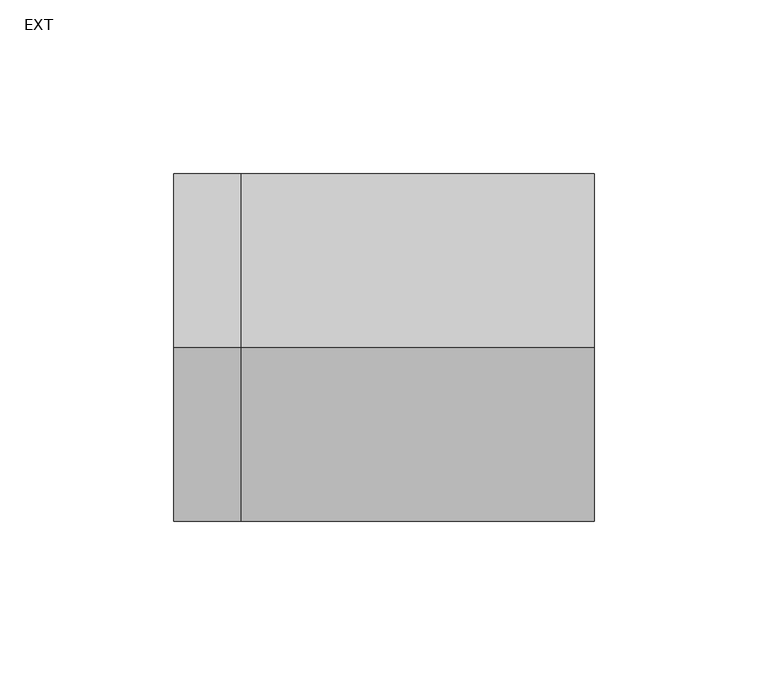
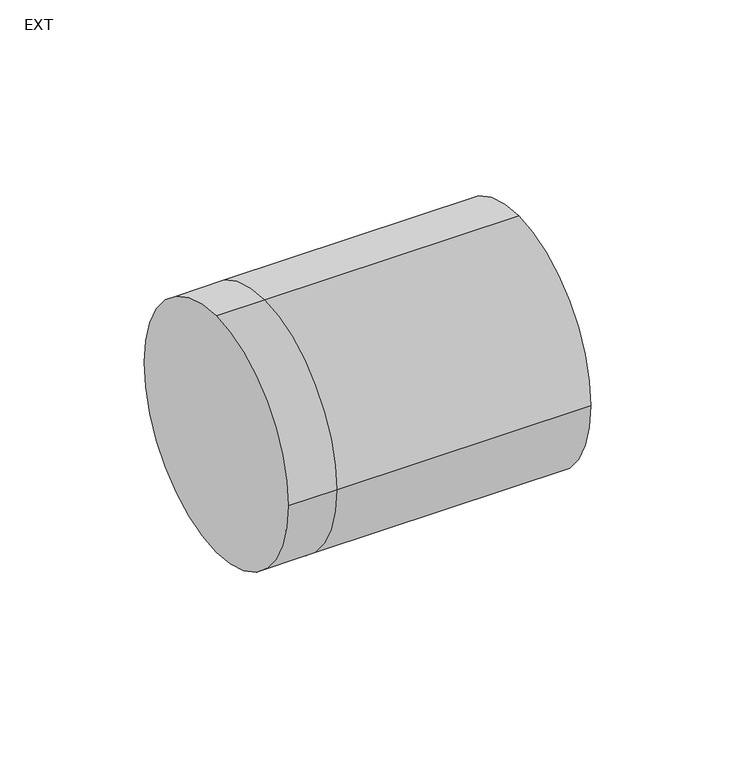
"""IFC4 building model written with IfcOpenShell, lengths in millimetres: duct fitting geometry, M_Toma de derivación redonda : EXT."""

from ifc_helpers import new_model, si_unit, frame, origin, place, context, project, spatial, circle_curve, source, transform, mapped, element, save
from ifc_brep_helpers import plane_surface, cylinder_surface, advanced_brep


def ext_600b08cb(model_context):
    return source(origin(), model_context, "Body", "AdvancedBrep", [
        advanced_brep(
        [(101.6, 0.0, 50.0), (101.6, -50.0, 0.0), (101.6, 0.0, -50.0), (101.6, 50.0, 0.0), (0.0, 50.0, 0.0), (0.0, 0.0, 50.0), (0.0, 0.0, -50.0), (0.0, -50.0, 0.0), (-19.4934596, 0.0, 50.0), (-19.4934596, 50.0, 0.0), (-19.4934596, 0.0, -50.0), (-19.4934596, -50.0, 0.0)],
        [
            (0, 1, circle_curve(frame((101.6, 0.0, 0.0), z_axis=(1.0, 0.0, 0.0), x_axis=(0.0, 1.0, 0.0)), 50.0)),
            (1, 2, circle_curve(frame((101.6, 0.0, 0.0), z_axis=(1.0, 0.0, 0.0), x_axis=(0.0, 1.0, 0.0)), 50.0)),
            (2, 3, circle_curve(frame((101.6, 0.0, 0.0), z_axis=(1.0, 0.0, 0.0), x_axis=(0.0, 1.0, 0.0)), 50.0)),
            (3, 0, circle_curve(frame((101.6, 0.0, 0.0), z_axis=(1.0, 0.0, 0.0), x_axis=(0.0, 1.0, 0.0)), 50.0)),
            (3, 4),
            (4, 5, circle_curve(frame((0.0, 0.0, 0.0), z_axis=(1.0, 0.0, 0.0), x_axis=(0.0, 1.0, 0.0)), 50.0)),
            (5, 0),
            (2, 6),
            (6, 4, circle_curve(frame((0.0, 0.0, 0.0), z_axis=(1.0, 0.0, 0.0), x_axis=(0.0, 1.0, 0.0)), 50.0)),
            (1, 7),
            (7, 6, circle_curve(frame((0.0, 0.0, 0.0), z_axis=(1.0, 0.0, 0.0), x_axis=(0.0, 1.0, 0.0)), 50.0)),
            (5, 7, circle_curve(frame((0.0, 0.0, 0.0), z_axis=(1.0, 0.0, 0.0), x_axis=(0.0, 1.0, 0.0)), 50.0)),
            (8, 9, circle_curve(frame((-19.4934596, 0.0, 0.0), z_axis=(-1.0, 0.0, 0.0), x_axis=(0.0, 1.0, 0.0)), 50.0)),
            (9, 10, circle_curve(frame((-19.4934596, 0.0, 0.0), z_axis=(-1.0, 0.0, 0.0), x_axis=(0.0, 1.0, 0.0)), 50.0)),
            (10, 11, circle_curve(frame((-19.4934596, 0.0, 0.0), z_axis=(-1.0, 0.0, 0.0), x_axis=(0.0, 1.0, 0.0)), 50.0)),
            (11, 8, circle_curve(frame((-19.4934596, 0.0, 0.0), z_axis=(-1.0, 0.0, 0.0), x_axis=(0.0, 1.0, 0.0)), 50.0)),
            (8, 5),
            (4, 9),
            (6, 10),
            (7, 11),
        ],
        [
            plane_surface(frame((101.6, 0.0, 0.0), z_axis=(1.0, 0.0, 0.0), x_axis=(0.0, 0.0, 1.0))),
            cylinder_surface(frame((0.0, 0.0, 0.0), z_axis=(-1.0, 0.0, 0.0), x_axis=(0.0, 1.0, 0.0)), 50.0),
            plane_surface(frame((-19.4934596, 0.0, 0.0), z_axis=(-1.0, 0.0, 0.0), x_axis=(0.0, 0.0, 1.0))),
            cylinder_surface(frame((-19.4934596, 0.0, 0.0), z_axis=(-1.0, 0.0, 0.0), x_axis=(0.0, 1.0, 0.0)), 50.0),
        ],
        [
            (0, [[1, 2, 3, 4]]),
            (1, [[-4, 5, 6, 7]]),
            (1, [[-3, 8, 9, -5]]),
            (1, [[-2, 10, 11, -8]]),
            (1, [[-1, -7, 12, -10]]),
            (2, [[13, 14, 15, 16]]),
            (3, [[-13, 17, -6, 18]]),
            (3, [[-14, -18, -9, 19]]),
            (3, [[-15, -19, -11, 20]]),
            (3, [[-16, -20, -12, -17]]),
        ],
    ),
    ])


if __name__ == "__main__":
    model = new_model("IFC4")
    model_context = context("Model", 3, world=origin())
    ifc_project = project(units=[si_unit("LENGTHUNIT", "METRE", prefix="MILLI")], contexts=[model_context])
    site = spatial("IfcSite", under=ifc_project)
    building = spatial("IfcBuilding", under=site)
    placement = place(None, origin())
    ext_shape = ext_600b08cb(model_context)
    element("IfcDuctFitting", 1, ObjectType="M_Toma de derivación redonda : EXT", at=placement, inside=building, context=model_context, shape_type="MappedRepresentation", body=[
        mapped(ext_shape, transform((0.0, 0.0, 0.0), x_axis=(1.0, 0.0, 0.0), y_axis=(0.0, 1.0, 0.0), z_axis=(0.0, 0.0, 1.0))),
    ])
    save(model, "model.ifc")
